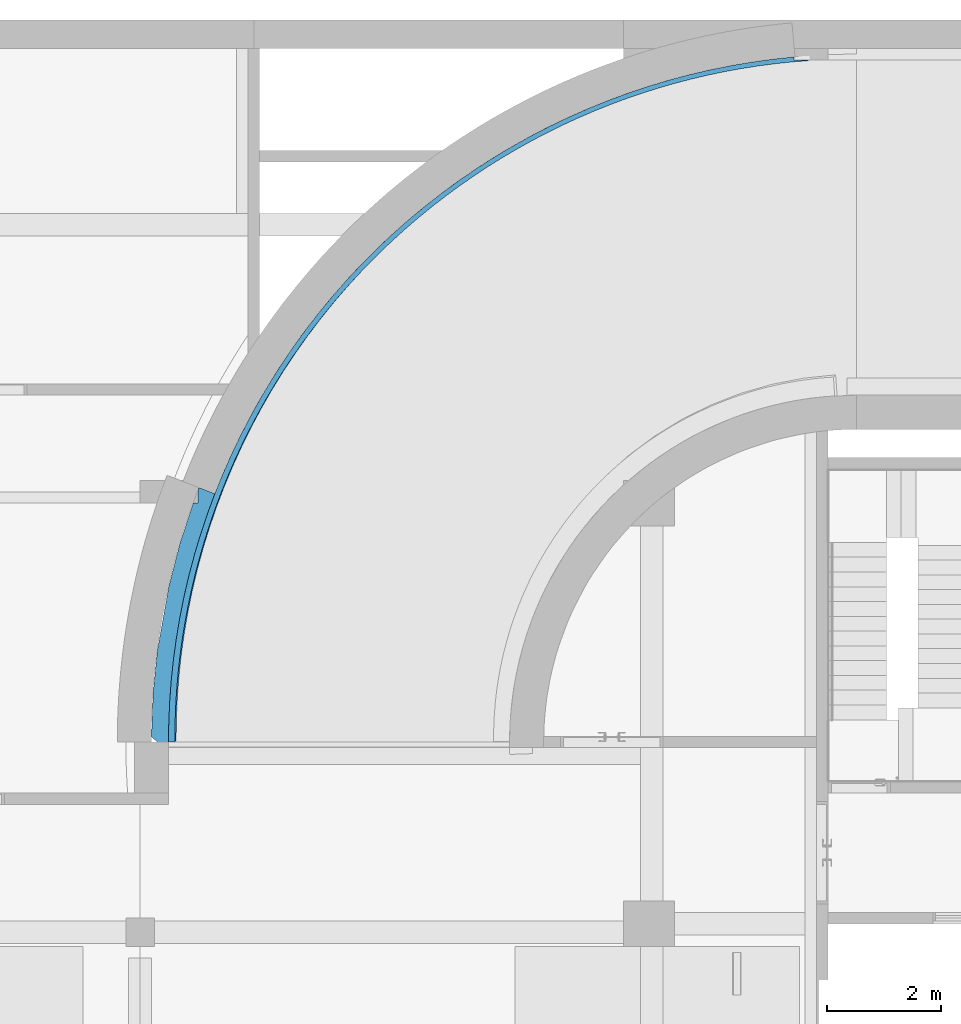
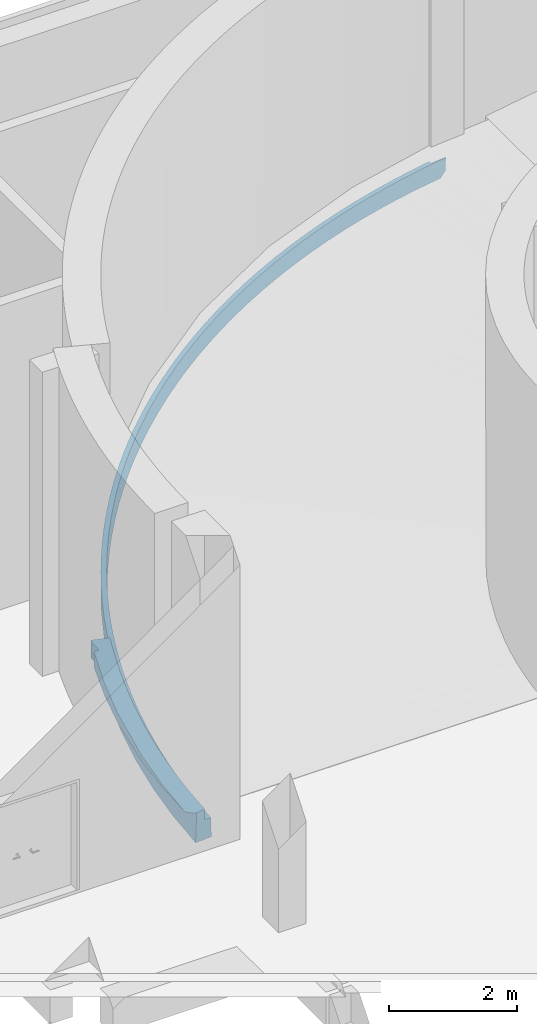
# One storey, part 19 of 29: 1 beam.
"""IFC2X3 building model written with IfcOpenShell, lengths in millimetres."""

from ifc_helpers import new_model, entity, si_unit, converted_unit, derived_unit, direction, frame, origin, place, context, subcontext, project, spatial, faceted_brep, material, material_list, type_object, element, save


model = new_model("IFC2X3")

# Units and contexts
model_context = context("Model", 3, precision=0.01, world=origin(), true_north=direction((6.123031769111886e-17, 1.0)))
body_context = subcontext(model_context, "Body", "Model", "MODEL_VIEW")
ifc_project = project(units=[si_unit("LENGTHUNIT", "METRE", prefix="MILLI"), si_unit("AREAUNIT", "SQUARE_METRE"), si_unit("VOLUMEUNIT", "CUBIC_METRE"), converted_unit("PLANEANGLEUNIT", "DEGREE", entity("IfcRatioMeasure", 0.017453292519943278), si_unit("PLANEANGLEUNIT", "RADIAN"), dimensions=[0, 0, 0, 0, 0, 0, 0]), si_unit("MASSUNIT", "GRAM", prefix="KILO"), derived_unit("MASSDENSITYUNIT", [(si_unit("MASSUNIT", "GRAM", prefix="KILO"), 1), (si_unit("LENGTHUNIT", "METRE"), -3)]), derived_unit("MOMENTOFINERTIAUNIT", [(si_unit("LENGTHUNIT", "METRE"), 4)]), si_unit("TIMEUNIT", "SECOND"), si_unit("FREQUENCYUNIT", "HERTZ"), si_unit("THERMODYNAMICTEMPERATUREUNIT", "DEGREE_CELSIUS"), derived_unit("THERMALTRANSMITTANCEUNIT", [(si_unit("MASSUNIT", "GRAM", prefix="KILO"), 1), (si_unit("THERMODYNAMICTEMPERATUREUNIT", "KELVIN"), -1), (si_unit("TIMEUNIT", "SECOND"), -3)]), derived_unit("VOLUMETRICFLOWRATEUNIT", [(si_unit("LENGTHUNIT", "METRE"), 3), (si_unit("TIMEUNIT", "SECOND"), -1)]), derived_unit("MASSFLOWRATEUNIT", [(si_unit("MASSUNIT", "GRAM", prefix="KILO"), 1), (si_unit("TIMEUNIT", "SECOND"), -1)]), derived_unit("ROTATIONALFREQUENCYUNIT", [(si_unit("TIMEUNIT", "SECOND"), -1)]), si_unit("ELECTRICCURRENTUNIT", "AMPERE"), si_unit("ELECTRICVOLTAGEUNIT", "VOLT"), si_unit("POWERUNIT", "WATT"), si_unit("FORCEUNIT", "NEWTON", prefix="KILO"), si_unit("ILLUMINANCEUNIT", "LUX"), si_unit("LUMINOUSFLUXUNIT", "LUMEN"), si_unit("LUMINOUSINTENSITYUNIT", "CANDELA"), derived_unit("USERDEFINED", [(si_unit("MASSUNIT", "GRAM", prefix="KILO"), -1), (si_unit("LENGTHUNIT", "METRE"), -2), (si_unit("TIMEUNIT", "SECOND"), 3), (si_unit("LUMINOUSFLUXUNIT", "LUMEN"), 1)]), derived_unit("SOUNDPOWERUNIT", [(si_unit("MASSUNIT", "GRAM", prefix="KILO"), 1), (si_unit("LENGTHUNIT", "METRE"), 2), (si_unit("TIMEUNIT", "SECOND"), -3)]), derived_unit("SOUNDPRESSUREUNIT", [(si_unit("MASSUNIT", "GRAM", prefix="KILO"), 1), (si_unit("LENGTHUNIT", "METRE"), -1), (si_unit("TIMEUNIT", "SECOND"), -2)]), derived_unit("LINEARVELOCITYUNIT", [(si_unit("LENGTHUNIT", "METRE"), 1), (si_unit("TIMEUNIT", "SECOND"), -1)]), si_unit("PRESSUREUNIT", "PASCAL"), derived_unit("USERDEFINED", [(si_unit("LENGTHUNIT", "METRE"), -2), (si_unit("MASSUNIT", "GRAM", prefix="KILO"), 1), (si_unit("TIMEUNIT", "SECOND"), -2)]), derived_unit("LINEARFORCEUNIT", [(si_unit("MASSUNIT", "GRAM", prefix="KILO"), 1), (si_unit("LENGTHUNIT", "METRE"), 1), (si_unit("TIMEUNIT", "SECOND"), -2), (si_unit("LENGTHUNIT", "METRE"), -1)]), derived_unit("PLANARFORCEUNIT", [(si_unit("MASSUNIT", "GRAM", prefix="KILO"), 1), (si_unit("LENGTHUNIT", "METRE"), 1), (si_unit("TIMEUNIT", "SECOND"), -2), (si_unit("LENGTHUNIT", "METRE"), -2)])], contexts=[model_context])

# Site, building, storey
site_placement = place(None, frame((-14167.972527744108, -657.2125860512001, 0.0)))
site = spatial("IfcSite", under=ifc_project, at=site_placement, Name="Default", CompositionType="ELEMENT")
building_placement = place(site_placement, origin())
building = spatial("IfcBuilding", under=site, at=building_placement, Name="Sample Building", CompositionType="ELEMENT")
storey_placement = place(building_placement, frame((0.0, 0.0, -6100.0)))
storey = spatial("IfcBuildingStorey", under=building, at=storey_placement, Name="지하1층", CompositionType="ELEMENT", Elevation=-6099.999999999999)

# Beam
ifc_material = material(Name="KBIMS-콘크리트")
ifc_material_list = material_list([ifc_material, ifc_material])
beam_type = type_object("IfcBeamType", Name="BM111-철근콘크리트구조 보:BM110-철근 콘크리트구조 보_600 x 600_RAWG1", PredefinedType="BEAM", material=ifc_material_list)
beam_placement = place(storey_placement, frame((18366.725436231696, 23142.776990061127, -599.2969066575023), z_axis=(0.058724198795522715, 0.06296716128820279, -0.9962864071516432), x_axis=(0.998272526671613, -0.0018522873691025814, 0.05872419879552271)))
element("IfcBeam", 1, at=beam_placement, inside=storey, type_object=beam_type, material=ifc_material, Name="BM111-철근콘크리트구조 보:BM110-철근 콘크리트구조 보_600 x 600_RAWG1", ObjectType="BM111-철근콘크리트구조 보:BM110-철근 콘크리트구조 보_600 x 600_RAWG1", context=body_context, shape_type="Brep", body=[
    faceted_brep([(162.71949180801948, -39.28253813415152, -189.3195712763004), (151.0261908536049, -39.27050923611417, 9.78270127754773), (436.2355091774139, -39.56390404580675, 9.78270127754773), (436.2355091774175, -39.563904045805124, -379.6117303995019), (380.39521511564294, -39.506461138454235, -382.86196828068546), (324.5549398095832, -39.44901825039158, -386.11261512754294), (324.56495473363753, -39.44902855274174, -386.28286213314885), (324.57496966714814, -39.449038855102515, -386.4531091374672), (174.4255118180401, -39.29458011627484, -388.4218810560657), (335.9217403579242, -39.46071127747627, -579.2364911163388), (336.2450713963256, -39.46104388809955, -584.7268950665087), (336.56841232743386, -39.46137650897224, -590.2172987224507), (149.83192149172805, -39.26928069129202, -590.2172987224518), (429.91580610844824, -1531.9850447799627, -590.2172987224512), (481.94817095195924, -1902.5347957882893, -590.2172987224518), (545.3760374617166, -2271.345163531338, -590.2172987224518), (620.1390376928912, -2638.065234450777, -590.2172987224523), (706.1660213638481, -3002.346084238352, -590.2172987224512), (803.375123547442, -3363.8411096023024, -590.2172987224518), (911.6738425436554, -3722.2063578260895, -590.2172987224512), (1030.9591278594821, -4077.1008538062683, -590.2172987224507), (1161.1174782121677, -4428.186924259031, -590.2172987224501), (881.0402471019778, -4536.121561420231, -590.2172987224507), (873.3557905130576, -4516.282974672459, -590.2172987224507), (865.7052162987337, -4496.431397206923, -590.2172987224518), (865.2696123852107, -4261.666842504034, -590.2172987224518), (778.0972655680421, -4261.505052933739, -590.2172987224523), (540.3864688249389, -3535.0413420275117, -590.2172987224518), (347.68220886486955, -2795.5097373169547, -590.2172987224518), (296.90113244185, -2513.5899152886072, -590.2172987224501), (246.12005601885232, -2231.6700932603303, -590.2172987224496), (144.55790317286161, -1667.8304492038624, -590.2172987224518), (67.17555612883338, -907.9301091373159, -590.2172987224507), (36.58687885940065, -144.88344941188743, -590.2172987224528), (337.3264279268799, -86.20765672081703, -590.2172987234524), (338.0844435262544, -132.9539369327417, -590.2172987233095), (339.6004747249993, -226.44649735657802, -590.2172987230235), (342.6325371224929, -413.43161820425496, -590.2172987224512), (360.22480714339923, -787.0789899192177, -590.2172987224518), (389.3284710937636, -1160.048479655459, -590.2172987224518), (569.7834391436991, -1840.7295604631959, -397.94097945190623), (585.6237480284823, -1943.21183423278, 9.782701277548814), (618.2493428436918, -2138.1107619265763, -399.62535051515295), (651.6276286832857, -2319.7557747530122, 9.78270127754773), (674.1383017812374, -2434.188503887, -400.95211692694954), (808.0409787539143, -3021.691717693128, -402.58733271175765), (737.4153807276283, -2728.777077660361, -401.9347352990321), (729.5467022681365, -2694.015665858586, 9.78270127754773), (819.3024911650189, -3065.614566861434, 9.78270127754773), (885.9708704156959, -3312.7487733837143, -402.9243507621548), (920.8045962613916, -3434.1782171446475, 9.782701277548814), (971.1562361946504, -3601.765807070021, -402.9604761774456), (439.6933168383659, -340.8256685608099, -383.7073069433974), (441.9083675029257, -421.8068748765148, 9.78270127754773), (450.684656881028, -641.9122777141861, -387.3705755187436), (531.601537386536, -1564.7630854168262, 9.782701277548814), (528.7708424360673, -1542.2314746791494, -395.8860294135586), (495.23709702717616, -1242.803840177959, -393.44768713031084), (469.2030149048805, -942.6346187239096, -390.61333158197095), (489.6154063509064, -1184.7906878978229, 9.782701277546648), (459.7076422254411, -803.6773358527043, 9.782701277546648), (1063.5436986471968, -3888.5617077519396, -402.7105940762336), (1033.9507879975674, -3799.3354131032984, 9.78270127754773), (1269.6888490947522, -4454.77297125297, -401.41305927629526), (1163.0753611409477, -4172.95680331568, -402.1897412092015), (1158.6271093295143, -4160.7183820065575, 9.78270127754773), (1383.3173526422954, -4733.833745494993, -400.39574489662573), (1294.7079905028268, -4517.963152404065, 9.782701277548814), (1600.5238601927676, -5218.603413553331, 9.782701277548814), (1631.330290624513, -5282.992224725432, -397.7000997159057), (1503.8896785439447, -5009.964437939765, -399.1529857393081), (1769.950841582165, -5561.293245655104, 9.78270127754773), (1765.5593613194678, -5552.746255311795, -396.0526156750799), (1442.0563755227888, -4870.709920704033, 9.78270127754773), (1906.4928265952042, -5819.057760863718, -394.2262309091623), (2140.9898647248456, -6229.686938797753, 9.782701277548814), (2208.115835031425, -6340.689139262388, -390.1001157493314), (2054.042441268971, -6081.760156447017, -392.2367653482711), (2342.2282090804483, -6554.717618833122, 9.782701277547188), (2368.6165651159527, -6595.682777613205, -387.83221004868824), (2535.4442021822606, -6846.581647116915, -385.44896643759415), (2553.6790317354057, -6873.198954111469, 9.782701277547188), (2708.494369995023, -7093.228886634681, -382.96635616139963), (2887.6588175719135, -7335.470304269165, -380.40051089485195), (2775.1293669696, -7184.810182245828, 9.782701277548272), (1950.1666787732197, -5898.434272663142, 9.782701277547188), (3072.825486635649, -7573.154470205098, -377.7676929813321), (3006.356177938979, -7489.237460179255, 9.782701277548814), (3663.1626019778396, -8257.392495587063, -369.6310162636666), (3460.698638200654, -8034.259684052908, -372.36656454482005), (3497.198081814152, -8075.321279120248, 9.782701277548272), (3247.1265813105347, -7786.1741802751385, 9.78270127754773), (3263.8785810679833, -7806.132807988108, -375.0842491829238), (3756.318816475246, -8356.387538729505, 9.782701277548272), (3871.143897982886, -8475.39175673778, -366.8939276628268), (4300.655229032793, -8893.15364706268, 9.78270127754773), (4303.1350781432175, -8895.44779132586, -361.4800066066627), (4084.5125133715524, -8688.121186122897, -364.1715274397), (4024.227808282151, -8629.089879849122, 9.782701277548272), (4585.3226710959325, -9148.312885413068, 9.782701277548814), (4755.592225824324, -9293.377441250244, -356.25470497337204), (4526.874934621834, -9097.241939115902, -358.83562817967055), (5178.222782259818, -9630.899056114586, 9.782701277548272), (5227.384196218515, -9668.185445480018, -351.3484485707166), (4989.143979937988, -9483.731632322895, -353.7535536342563), (4877.94342781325, -9394.310608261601, 9.78270127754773), (5800.540154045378, -10074.904712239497, 9.78270127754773), (5968.732032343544, -10185.009468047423, -344.87055813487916), (5717.331395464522, -10018.934105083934, -346.8909874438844), (5485.858304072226, -9857.839946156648, 9.782701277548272), (5470.1639326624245, -9846.623486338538, -349.05557588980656), (6449.768316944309, -10478.541562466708, 9.78270127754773), (6483.60137416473, -10498.042571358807, -341.3251412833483), (6224.208624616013, -10344.745625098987, -343.01003304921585), (6783.6607511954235, -10664.707119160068, 9.782701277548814), (7013.483865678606, -10784.938943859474, -338.5449533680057), (6746.74800609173, -10644.804315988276, -339.83157689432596), (6121.951396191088, -10281.874735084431, 9.782701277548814), (10380.172202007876, -11913.002579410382, 9.782701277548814), (10431.539340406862, -11921.990751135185, -344.72375357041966), (10135.301391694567, -11866.991938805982, -342.3641187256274), (10004.857958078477, -11840.332306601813, 9.78270127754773), (9840.528959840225, -11804.600564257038, -340.38662493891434), (11619.344405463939, -12066.86844320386, -229.7619908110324), (11627.415327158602, -12067.445252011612, -358.2322268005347), (11327.182710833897, -12042.31245827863, -354.2203291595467), (10757.603402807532, -11973.72684889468, 9.782701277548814), (11027.667180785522, -12009.678240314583, -350.6396044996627), (10729.05687565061, -11969.56271580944, -347.4781315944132), (7818.3997366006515, -11158.375182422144, 9.78270127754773), (7833.546690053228, -11164.723369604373, -336.08069646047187), (7557.053357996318, -11044.979930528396, -336.6543062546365), (7468.321243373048, -11004.795190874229, 9.782701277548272), (7283.6420194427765, -10918.35867647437, -337.4807579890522), (9262.089837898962, -11659.458470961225, 9.782701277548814), (9547.407074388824, -11734.855599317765, -338.77795897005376), (9256.119664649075, -11657.800657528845, -337.52432237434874), (8895.384049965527, -11551.437076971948, 9.78270127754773), (8966.849455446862, -11573.48396223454, -336.6116233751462), (8679.77785569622, -11481.958310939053, -336.0255232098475), (9632.038673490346, -11755.78922099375, 9.782701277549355), (7123.292414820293, -10840.183906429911, 9.78270127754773), (8112.948860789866, -11277.513964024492, -335.7748074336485), (8173.175308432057, -11300.769201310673, 9.782701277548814), (8532.290642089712, -11431.83383387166, 9.782701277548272), (8395.084844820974, -11383.281036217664, -335.7514824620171), (11611.273871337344, -12066.286212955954, -101.2922185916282), (11136.771425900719, -12022.443956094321, 9.782701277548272), (11564.27049927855, -12062.786938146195, -47.212266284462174), (11517.281179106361, -12059.103773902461, 9.782701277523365), (1709.660672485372, -5669.557322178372, 9.782701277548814), (1882.0206614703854, -5984.538632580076, 9.78270127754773), (2254.231506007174, -6598.628172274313, 9.782701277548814), (2403.9980716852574, -6815.745995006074, 9.7827012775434), (2661.9988888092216, -7189.7719027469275, 9.782701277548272), (3131.7754618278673, -7789.405566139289, 9.782701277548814), (3638.1008006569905, -8358.540684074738, 9.78270127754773), (4178.983008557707, -8894.938264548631, 9.782701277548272), (4465.6386248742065, -9145.713185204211, 9.782701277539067), (4752.29424119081, -9396.488105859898, 9.78270127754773), (5054.036659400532, -9628.85260202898, 9.782701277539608), (5355.779077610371, -9861.217098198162, 9.782701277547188), (5671.421235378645, -10074.257042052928, 9.782701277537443), (5987.063393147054, -10287.296985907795, 9.782701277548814), (6483.85857188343, -10568.81161776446, 9.782701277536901), (6980.653750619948, -10850.326249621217, 9.782701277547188), (7325.505079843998, -11011.562443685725, 9.78270127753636), (7670.356409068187, -11172.798637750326, 9.782701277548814), (8024.554674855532, -11312.130381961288, 9.782701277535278), (8378.75294064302, -11451.462126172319, 9.782701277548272), (8740.904718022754, -11568.341285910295, 9.782701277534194), (9103.056495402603, -11685.220445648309, 9.782701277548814), (9471.737070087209, -11779.18721533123, 9.782701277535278), (9840.417644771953, -11873.153985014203, 9.78270127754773), (10214.176618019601, -11943.838696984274, 9.782701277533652), (10587.935591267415, -12014.523408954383, 9.782701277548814), (10965.302585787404, -12061.647987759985, 9.782701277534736), (11342.669580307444, -12108.772566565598, 9.782701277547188), (11342.576818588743, -12058.779527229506, 9.782701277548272), (176.3169610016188, -785.0729508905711, 9.78270127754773), (246.31249138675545, -1528.1768524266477, 9.782701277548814), (360.7601641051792, -2265.902657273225, 9.78270127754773), (519.24712939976, -2995.590214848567, 9.78270127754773), (721.2017945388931, -3714.6083635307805, 9.78270127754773), (965.8921161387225, -4420.354509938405, 9.78270127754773), (1115.2768829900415, -4363.196390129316, 9.782701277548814), (1393.1850046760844, -5025.098509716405, 9.78270127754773), (11363.94133546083, -12081.687681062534, -352.6773780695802), (11429.548953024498, -12081.882679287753, -353.83809061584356), (11495.15594193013, -12082.077963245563, -355.00335044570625), (11560.762396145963, -12082.273514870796, -356.17286846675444), (11626.366491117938, -12082.469310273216, -357.3463196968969), (186.14687362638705, -51.86283808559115, -587.2808469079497), (335.89315040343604, -51.584984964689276, -578.4718995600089), (335.9059233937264, -45.5228501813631, -578.8542849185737), (64.24855545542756, -904.7916257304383, -540.5592183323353), (138.55416651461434, -1661.3929283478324, -488.36080093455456), (237.68117142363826, -2222.6214792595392, -447.0472566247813), (336.80817633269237, -2783.850030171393, -405.7337123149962), (526.1133264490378, -3519.7369312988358, -348.06605565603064), (760.3181279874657, -4242.4413305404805, -288.5850335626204), (847.1892599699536, -4242.280141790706, -283.4747680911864), (846.7552737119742, -4476.1122763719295, -268.72172104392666), (854.3060595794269, -4495.8568555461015, -267.0287601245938), (861.8906590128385, -4515.588370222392, -265.33463182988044), (1141.4011444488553, -4407.04603866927, -255.7194983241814), (1136.2238655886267, -4393.5875954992, -256.8752618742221), (1131.0626198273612, -4380.122683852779, -258.03048920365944), (981.9816576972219, -4437.606558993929, -263.1846934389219), (739.5098086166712, -3731.5810248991, -322.0988654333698), (540.1598563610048, -3012.0419188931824, -379.3253825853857), (384.66256607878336, -2281.623056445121, -434.6547092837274), (273.5850657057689, -1542.9878966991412, -487.8850816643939), (207.33256426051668, -798.8298628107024, -538.8223860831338), (327.40451485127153, -42.48302538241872, -434.45780674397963), (330.2340600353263, -45.5170119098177, -482.4625043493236), (11626.890909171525, -12074.957281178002, -357.78927381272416), (378.9259371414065, -1157.6488105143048, -398.2135346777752), (328.8233708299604, -277.08856750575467, -389.0875110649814), (331.2595435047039, -412.71942895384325, -390.785408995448), (324.6883282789, -46.87525416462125, -386.2055806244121), (324.8217167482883, -54.30149007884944, -386.29854612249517), (325.0884936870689, -69.15396190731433, -386.48447711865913), (325.622047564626, -98.85890556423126, -386.8563391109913), (326.6891553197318, -158.26879287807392, -387.60006309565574), (349.3895752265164, -785.5649745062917, -394.8115602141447), (419.8402708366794, -1528.6331808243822, -401.0143524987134), (324.58828692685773, -41.30557722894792, -386.13585650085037), (472.09499153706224, -1898.1814100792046, -403.23750466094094), (793.439546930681, -3355.308560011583, -406.84064542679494), (610.4305212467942, -2631.6347951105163, -406.04664400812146), (324.6216340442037, -43.16213620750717, -386.1590978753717), (696.3888712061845, -2994.866433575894, -406.6823977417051), (1150.1839352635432, -4416.463406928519, -404.7240873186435), (901.4919406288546, -3712.6161921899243, -406.54853187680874), (1020.4442353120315, -4066.4470941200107, -405.833686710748), (535.6435690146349, -2265.959426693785, -404.9068507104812), (11363.905357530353, -12106.595888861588, -351.2801190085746), (11363.869337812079, -12131.504056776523, -349.88215018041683), (10991.733030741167, -12090.801461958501, -345.643431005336), (9520.880397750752, -11814.422315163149, -334.8206692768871), (9885.240871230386, -11900.434978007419, -336.65329078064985), (10252.068457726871, -11975.213579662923, -339.05193891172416), (9159.332225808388, -11717.255717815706, -333.52845327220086), (10621.015672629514, -12038.688655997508, -342.04092957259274), (8800.938857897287, -11609.025921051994, -332.75032108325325), (7068.053323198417, -10905.836340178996, -335.6184263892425), (6735.5905914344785, -10733.715380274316, -337.34945386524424), (5161.140173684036, -9724.598689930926, -350.21021831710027), (4865.90971013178, -9494.405765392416, -353.41691755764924), (6408.578176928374, -10551.455218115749, -339.39992176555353), (4577.899357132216, -9255.242811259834, -356.7650830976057), (7405.6515635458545, -11067.656005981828, -334.23571033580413), (7748.065615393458, -11219.022085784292, -333.2297329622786), (8446.039794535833, -11489.834191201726, -332.4593999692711), (8094.971207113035, -11359.792233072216, -332.6283974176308), (6087.32570346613, -10359.227597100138, -341.74064549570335), (4297.38161987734, -9007.335725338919, -360.2241971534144), (5772.137313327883, -10157.213750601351, -344.3422574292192), (5463.311369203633, -9945.604224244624, -347.17532313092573), (4024.6218692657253, -8750.91872729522, -363.76369451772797), (541.2848159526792, -1990.2461637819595, -401.20968139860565), (413.5678137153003, -967.3840854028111, -393.86948475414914), (457.5447483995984, -1390.2716714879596, -397.33870799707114), (655.0749344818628, -2584.9143529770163, -403.6169973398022), (794.6832539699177, -3173.7940090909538, -404.83472971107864), (390.5287572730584, -484.2444783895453, -388.4658506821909), (3503.400639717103, -8213.53213522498, -370.96204593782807), (3255.432013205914, -7933.070546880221, -374.56006949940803), (2151.129302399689, -6423.894991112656, -391.31424148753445), (1958.837284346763, -6102.685545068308, -394.2054636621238), (3016.2066023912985, -7645.114568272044, -378.11650793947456), (1776.5128653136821, -5775.713409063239, -396.873589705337), (3759.8780890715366, -8486.23413403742, -367.3530946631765), (1604.327966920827, -5443.288053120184, -399.28886555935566), (2353.2075084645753, -6739.0377621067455, -388.22976384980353), (2564.8811844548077, -7047.815659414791, -384.98187556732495), (2785.950480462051, -7349.9365350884, -381.6006524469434), (1442.4448582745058, -5105.7241355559, -401.4217548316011), (1291.0160045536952, -4763.341202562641, -403.24306968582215), (2390.737565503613, -6795.837116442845, -31.103693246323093), (2261.298909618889, -6607.861961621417, -50.61358830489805), (1278.113448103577, -4732.922086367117, -227.06527806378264), (1414.8257517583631, -5058.798134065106, -198.41105780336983), (1895.470477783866, -6003.358177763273, -110.382414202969), (2078.384693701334, -6305.6100696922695, -80.49800125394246), (1726.0303894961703, -5693.279282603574, -139.96730166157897), (1570.4280706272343, -5376.038708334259, -169.18917973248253), (853.890626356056, -4483.76317514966, -389.77666935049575), (873.9048944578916, -4528.470662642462, -469.1623504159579), (864.0949282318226, -4506.251923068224, -434.23304738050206)], [[[0, 1, 2, 3, 4, 5, 6, 7, 8]], [[9, 10, 11, 12]], [[13, 14, 15, 16, 17, 18, 19, 20, 21, 22, 23, 24, 25, 26, 27, 28, 29, 30, 31, 32, 33, 12, 11, 34, 35, 36, 37, 38, 39]], [[40, 41, 42]], [[43, 44, 42]], [[45, 46, 47]], [[47, 46, 44]], [[48, 49, 45]], [[49, 50, 51]], [[52, 3, 2]], [[52, 53, 54]], [[55, 56, 57]], [[57, 58, 59]], [[58, 54, 60]], [[56, 55, 40]], [[61, 51, 62]], [[63, 64, 65]], [[66, 63, 67]], [[68, 69, 70]], [[69, 71, 72]], [[70, 66, 73]], [[74, 72, 71]], [[75, 76, 77]], [[78, 79, 76]], [[80, 81, 82]], [[83, 82, 84]], [[78, 80, 79]], [[77, 74, 85]], [[64, 61, 65]], [[86, 83, 87]], [[53, 60, 54]], [[59, 58, 60]], [[55, 57, 59]], [[41, 40, 55]], [[41, 43, 42]], [[43, 47, 44]], [[47, 48, 45]], [[48, 50, 49]], [[50, 62, 51]], [[62, 65, 61]], [[63, 65, 67]], [[67, 73, 66]], [[2, 53, 52]], [[71, 85, 74]], [[69, 68, 71]], [[75, 78, 76]], [[88, 89, 90]], [[91, 89, 92]], [[77, 85, 75]], [[68, 70, 73]], [[80, 78, 81]], [[82, 81, 84]], [[83, 84, 87]], [[86, 87, 91]], [[89, 91, 90]], [[90, 93, 88]], [[93, 94, 88]], [[91, 92, 86]], [[95, 96, 97]], [[98, 97, 94]], [[99, 100, 101]], [[102, 103, 104]], [[105, 104, 100]], [[95, 101, 96]], [[106, 107, 108]], [[109, 108, 110]], [[111, 112, 113]], [[114, 115, 116]], [[111, 116, 112]], [[117, 113, 107]], [[109, 110, 103]], [[118, 119, 120]], [[121, 120, 122]], [[123, 124, 125]], [[126, 127, 128]], [[127, 123, 125]], [[126, 128, 119]], [[129, 130, 131]], [[132, 131, 133]], [[134, 135, 136]], [[137, 138, 139]], [[138, 134, 136]], [[135, 140, 122]], [[141, 133, 115]], [[95, 99, 101]], [[97, 98, 95]], [[105, 102, 104]], [[100, 99, 105]], [[109, 103, 102]], [[108, 109, 106]], [[142, 130, 129]], [[107, 106, 117]], [[113, 117, 111]], [[116, 111, 114]], [[115, 114, 141]], [[132, 133, 141]], [[131, 132, 129]], [[129, 143, 142]], [[144, 145, 143]], [[142, 143, 145]], [[144, 139, 145]], [[146, 123, 147]], [[146, 147, 148]], [[122, 140, 121]], [[139, 144, 137]], [[147, 123, 127]], [[138, 137, 134]], [[135, 134, 140]], [[118, 126, 119]], [[147, 127, 126]], [[121, 118, 120]], [[147, 149, 148]], [[93, 98, 94]], [[150, 151, 152, 153, 154, 155, 156, 157, 158, 159, 160, 161, 162, 163, 164, 165, 166, 167, 168, 169, 170, 171, 172, 173, 174, 175, 176, 177, 178, 149, 147, 126, 118, 121, 140, 134, 137, 144, 143, 129, 132, 141, 114, 111, 117, 106, 109, 102, 105, 99, 95, 98, 93, 90, 91, 87, 84, 81, 78, 75, 85, 71, 68, 73, 67, 65, 62, 50, 48, 47, 43, 41, 55, 59, 60, 53, 2, 1, 179, 180, 181, 182, 183, 184, 185, 186]], [[146, 148, 149, 178, 187, 188, 189, 190, 191]], [[192, 193, 194, 9, 12, 33, 195, 196, 197, 198, 199, 200, 201, 202, 203, 204, 205, 206, 207, 208, 209, 210, 211, 212, 213]], [[7, 214, 215, 193, 192, 8]], [[146, 191, 216, 124, 123]], [[201, 200, 26, 25]], [[193, 10, 194]], [[10, 9, 194]], [[11, 10, 193]], [[39, 38, 217]], [[36, 215, 218]], [[36, 219, 37]], [[214, 220, 221, 222, 223, 224]], [[225, 38, 37]], [[13, 39, 226]], [[36, 35, 215]], [[6, 5, 227]], [[224, 218, 215]], [[219, 225, 37]], [[36, 218, 219]], [[225, 217, 38]], [[217, 226, 39]], [[226, 228, 13]], [[18, 17, 229]], [[6, 227, 7]], [[16, 15, 230]], [[7, 227, 231, 220]], [[232, 17, 16]], [[233, 21, 20]], [[234, 19, 18]], [[19, 235, 20]], [[35, 193, 215]], [[20, 235, 233]], [[14, 236, 15]], [[236, 230, 15]], [[34, 11, 193, 35]], [[14, 228, 236]], [[13, 228, 14]], [[234, 18, 229]], [[232, 16, 230]], [[214, 7, 220]], [[229, 17, 232]], [[234, 235, 19]], [[215, 214, 224]], [[237, 238, 239]], [[127, 187, 239]], [[240, 122, 241]], [[120, 242, 241]], [[243, 136, 240]], [[189, 188, 125]], [[190, 189, 125]], [[239, 187, 237]], [[244, 128, 239]], [[125, 188, 187]], [[119, 244, 242]], [[191, 190, 216]], [[138, 243, 245]], [[115, 246, 247]], [[248, 249, 104]], [[112, 247, 250]], [[249, 251, 100]], [[252, 131, 253]], [[252, 246, 133]], [[145, 254, 255]], [[113, 250, 256]], [[101, 251, 257]], [[256, 258, 107]], [[258, 259, 108]], [[248, 110, 259]], [[255, 253, 130]], [[139, 245, 254]], [[96, 257, 260]], [[136, 135, 240]], [[243, 138, 136]], [[261, 56, 40]], [[135, 122, 240]], [[54, 58, 262]], [[139, 254, 145]], [[217, 263, 226]], [[42, 44, 264]], [[255, 142, 145]], [[138, 245, 139]], [[130, 142, 255]], [[261, 228, 226]], [[125, 187, 127]], [[229, 232, 265]], [[124, 216, 190]], [[262, 58, 57]], [[124, 190, 125]], [[4, 266, 219]], [[120, 241, 122]], [[266, 262, 225]], [[128, 244, 119]], [[119, 242, 120]], [[239, 128, 127]], [[130, 253, 131]], [[131, 252, 133]], [[236, 264, 230]], [[115, 247, 116]], [[112, 250, 113]], [[247, 112, 116]], [[232, 230, 264]], [[246, 115, 133]], [[107, 258, 108]], [[104, 103, 248]], [[259, 110, 108]], [[101, 100, 251]], [[97, 96, 260]], [[101, 257, 96]], [[264, 46, 45]], [[104, 249, 100]], [[256, 107, 113]], [[248, 103, 110]], [[260, 94, 97]], [[267, 89, 88]], [[267, 268, 89]], [[76, 269, 270]], [[268, 271, 92]], [[74, 270, 272]], [[94, 273, 88]], [[273, 94, 260]], [[273, 267, 88]], [[72, 272, 274]], [[275, 269, 79]], [[275, 80, 276]], [[82, 277, 276]], [[83, 271, 277]], [[278, 69, 274]], [[235, 234, 61]], [[229, 265, 234]], [[225, 262, 217]], [[263, 217, 262]], [[265, 45, 49]], [[64, 233, 235]], [[232, 264, 265]], [[261, 264, 236]], [[233, 63, 279]], [[263, 261, 226]], [[4, 219, 218, 224, 223, 222, 221, 220, 231, 227]], [[228, 261, 236]], [[219, 266, 225]], [[278, 279, 70]], [[52, 266, 4]], [[92, 89, 268]], [[86, 92, 271]], [[82, 83, 277]], [[79, 80, 275]], [[82, 276, 80]], [[86, 271, 83]], [[77, 76, 270]], [[72, 74, 272]], [[77, 270, 74]], [[70, 69, 278]], [[63, 66, 279]], [[70, 279, 66]], [[72, 274, 69]], [[79, 269, 76]], [[61, 64, 235]], [[51, 61, 234]], [[51, 265, 49]], [[44, 46, 264]], [[264, 45, 265]], [[265, 51, 234]], [[40, 42, 261]], [[57, 56, 263]], [[261, 263, 56]], [[266, 54, 262]], [[3, 52, 4]], [[54, 266, 52]], [[262, 57, 263]], [[42, 264, 261]], [[63, 233, 64]], [[8, 192, 213]], [[8, 213, 179]], [[180, 213, 212]], [[1, 0, 179]], [[179, 0, 8]], [[213, 180, 179]], [[212, 181, 180]], [[211, 210, 182]], [[209, 208, 184]], [[210, 209, 183]], [[181, 211, 182]], [[182, 210, 183]], [[209, 184, 183]], [[211, 181, 212]], [[185, 184, 208, 207]], [[280, 154, 153, 152, 281]], [[206, 205, 185]], [[207, 206, 185]], [[205, 186, 185]], [[186, 205, 282, 283]], [[186, 283, 150]], [[152, 284, 285, 281]], [[286, 284, 151]], [[150, 286, 151]], [[151, 284, 152]], [[150, 283, 287, 286]], [[32, 31, 196, 195]], [[197, 196, 31, 30, 29, 28, 198]], [[32, 195, 33]], [[27, 26, 200, 199]], [[28, 27, 199, 198]], [[25, 24, 288, 202, 201]], [[289, 290, 23]], [[203, 202, 288]], [[290, 24, 23]], [[203, 290, 204]], [[290, 289, 204]], [[203, 288, 290]], [[24, 290, 288]], [[23, 22, 289]], [[233, 205, 204, 289, 22, 21]], [[281, 275, 276]], [[277, 154, 276]], [[284, 272, 270]], [[281, 269, 275]], [[285, 270, 269]], [[277, 271, 155]], [[157, 260, 257]], [[251, 158, 257]], [[155, 271, 268]], [[156, 273, 260]], [[156, 267, 273]], [[155, 268, 267]], [[159, 251, 249]], [[274, 287, 278]], [[279, 278, 283]], [[279, 282, 233]], [[233, 282, 205]], [[287, 283, 278]], [[272, 286, 274]], [[277, 155, 154]], [[267, 156, 155]], [[272, 284, 286]], [[270, 285, 284]], [[276, 154, 280, 281]], [[260, 157, 156]], [[158, 157, 257]], [[248, 160, 249]], [[245, 171, 170]], [[255, 169, 168]], [[170, 254, 245]], [[169, 255, 254]], [[167, 252, 253]], [[253, 255, 168]], [[248, 161, 160]], [[269, 281, 285]], [[246, 252, 166]], [[171, 245, 243]], [[247, 164, 250]], [[176, 244, 239]], [[240, 173, 172]], [[279, 283, 282]], [[177, 239, 238]], [[173, 240, 241]], [[239, 177, 176]], [[242, 174, 241]], [[244, 175, 242]], [[242, 175, 174]], [[240, 172, 243]], [[252, 167, 166]], [[175, 244, 176]], [[163, 258, 256]], [[256, 250, 164]], [[160, 159, 249]], [[161, 248, 259]], [[162, 259, 258]], [[259, 162, 161]], [[164, 163, 256]], [[171, 243, 172]], [[241, 174, 173]], [[258, 163, 162]], [[169, 254, 170]], [[274, 286, 287]], [[165, 247, 246]], [[251, 159, 158]], [[253, 168, 167]], [[166, 165, 246]], [[165, 164, 247]], [[177, 238, 237]], [[178, 177, 187]], [[237, 187, 177]], [[4, 227, 5]]]),
])

save(model, "model.ifc")
